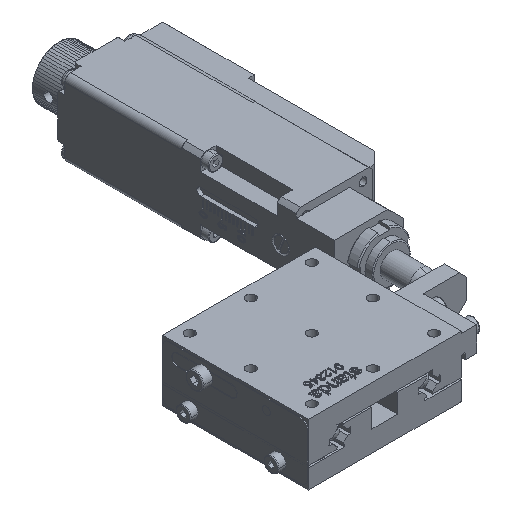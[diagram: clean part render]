
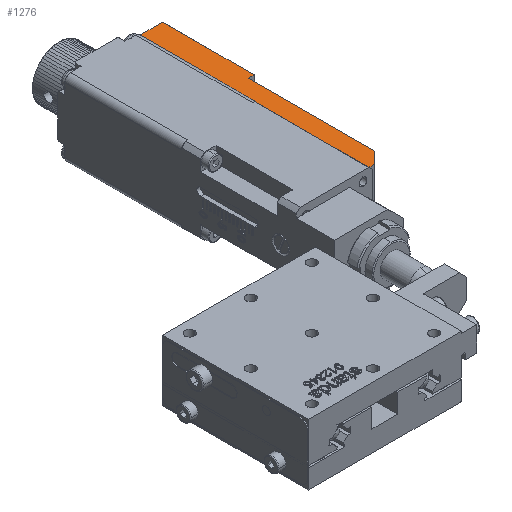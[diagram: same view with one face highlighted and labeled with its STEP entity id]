
A CAD part, isometric view. The second image highlights one B-rep face of the part: STEP entity #1276.
In plain terms, the highlighted planar face has unit normal (0, 0, 1).
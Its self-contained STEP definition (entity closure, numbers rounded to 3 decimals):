
#349 = EDGE_CURVE ( 'NONE', #367, #350, #22772, .T. ) ;
#350 = VERTEX_POINT ( 'NONE', #22768 ) ;
#367 = VERTEX_POINT ( 'NONE', #22799 ) ;
#1162 = ORIENTED_EDGE ( 'NONE', *, *, #349, .F. ) ;
#1216 = EDGE_LOOP ( 'NONE', ( #1279, #1162, #1268, #1367, #1512, #1498, #1372 ) ) ;
#1240 = VERTEX_POINT ( 'NONE', #24321 ) ;
#1268 = ORIENTED_EDGE ( 'NONE', *, *, #1269, .F. ) ;
#1269 = EDGE_CURVE ( 'NONE', #1271, #367, #24337, .T. ) ;
#1271 = VERTEX_POINT ( 'NONE', #24333 ) ;
#1276 = ADVANCED_FACE ( 'NONE', ( #24332 ), #24392, .F. ) ;
#1279 = ORIENTED_EDGE ( 'NONE', *, *, #1280, .F. ) ;
#1280 = EDGE_CURVE ( 'NONE', #350, #1240, #24382, .T. ) ;
#1367 = ORIENTED_EDGE ( 'NONE', *, *, #1475, .F. ) ;
#1371 = VERTEX_POINT ( 'NONE', #24542 ) ;
#1372 = ORIENTED_EDGE ( 'NONE', *, *, #1487, .F. ) ;
#1408 = VERTEX_POINT ( 'NONE', #24599 ) ;
#1475 = EDGE_CURVE ( 'NONE', #1371, #1271, #24732, .T. ) ;
#1477 = VERTEX_POINT ( 'NONE', #24722 ) ;
#1487 = EDGE_CURVE ( 'NONE', #1240, #1477, #24462, .T. ) ;
#1498 = ORIENTED_EDGE ( 'NONE', *, *, #1518, .F. ) ;
#1512 = ORIENTED_EDGE ( 'NONE', *, *, #1520, .T. ) ;
#1518 = EDGE_CURVE ( 'NONE', #1477, #1408, #24795, .T. ) ;
#1520 = EDGE_CURVE ( 'NONE', #1371, #1408, #24791, .T. ) ;
#22768 = CARTESIAN_POINT ( 'NONE',  ( 61., 105.2, 20. ) ) ;
#22769 = DIRECTION ( 'NONE',  ( 0., 1., 0. ) ) ;
#22770 = VECTOR ( 'NONE', #22769, 39.37 ) ;
#22771 = CARTESIAN_POINT ( 'NONE',  ( 61., 105.2, 20. ) ) ;
#22772 = LINE ( 'NONE', #22771, #22770 ) ;
#22799 = CARTESIAN_POINT ( 'NONE',  ( 61., 45.2, 20. ) ) ;
#24321 = CARTESIAN_POINT ( 'NONE',  ( 67., 105.2, 20. ) ) ;
#24332 = FACE_OUTER_BOUND ( 'NONE', #1216, .T. ) ;
#24333 = CARTESIAN_POINT ( 'NONE',  ( 62.5, 45.2, 20. ) ) ;
#24334 = DIRECTION ( 'NONE',  ( -1., 0., 0. ) ) ;
#24335 = VECTOR ( 'NONE', #24334, 39.37 ) ;
#24336 = CARTESIAN_POINT ( 'NONE',  ( 61., 45.2, 20. ) ) ;
#24337 = LINE ( 'NONE', #24336, #24335 ) ;
#24379 = DIRECTION ( 'NONE',  ( 1., 0., 0. ) ) ;
#24380 = VECTOR ( 'NONE', #24379, 39.37 ) ;
#24381 = CARTESIAN_POINT ( 'NONE',  ( 67.5, 105.2, 20. ) ) ;
#24382 = LINE ( 'NONE', #24381, #24380 ) ;
#24388 = DIRECTION ( 'NONE',  ( 0., 1., 0. ) ) ;
#24389 = DIRECTION ( 'NONE',  ( 0., 0., -1. ) ) ;
#24390 = CARTESIAN_POINT ( 'NONE',  ( 64.137, 75.915, 20. ) ) ;
#24391 = AXIS2_PLACEMENT_3D ( 'NONE', #24390, #24389, #24388 ) ;
#24392 = PLANE ( 'NONE',  #24391 ) ;
#24461 = CARTESIAN_POINT ( 'NONE',  ( 67., 75.915, 20. ) ) ;
#24462 = LINE ( 'NONE', #24461, #24776 ) ;
#24542 = CARTESIAN_POINT ( 'NONE',  ( 65.5, 48.2, 20. ) ) ;
#24599 = CARTESIAN_POINT ( 'NONE',  ( 65.5, 81.2, 20. ) ) ;
#24722 = CARTESIAN_POINT ( 'NONE',  ( 67., 81.2, 20. ) ) ;
#24729 = DIRECTION ( 'NONE',  ( -0.707, -0.707, 0. ) ) ;
#24730 = VECTOR ( 'NONE', #24729, 39.37 ) ;
#24731 = CARTESIAN_POINT ( 'NONE',  ( 65.5, 48.2, 20. ) ) ;
#24732 = LINE ( 'NONE', #24731, #24730 ) ;
#24775 = DIRECTION ( 'NONE',  ( 0., -1., 0. ) ) ;
#24776 = VECTOR ( 'NONE', #24775, 39.37 ) ;
#24788 = DIRECTION ( 'NONE',  ( 0., 1., 0. ) ) ;
#24789 = VECTOR ( 'NONE', #24788, 39.37 ) ;
#24790 = CARTESIAN_POINT ( 'NONE',  ( 65.5, 81.2, 20. ) ) ;
#24791 = LINE ( 'NONE', #24790, #24789 ) ;
#24792 = DIRECTION ( 'NONE',  ( -1., 0., 0. ) ) ;
#24793 = VECTOR ( 'NONE', #24792, 39.37 ) ;
#24794 = CARTESIAN_POINT ( 'NONE',  ( 64.137, 81.2, 20. ) ) ;
#24795 = LINE ( 'NONE', #24794, #24793 ) ;
